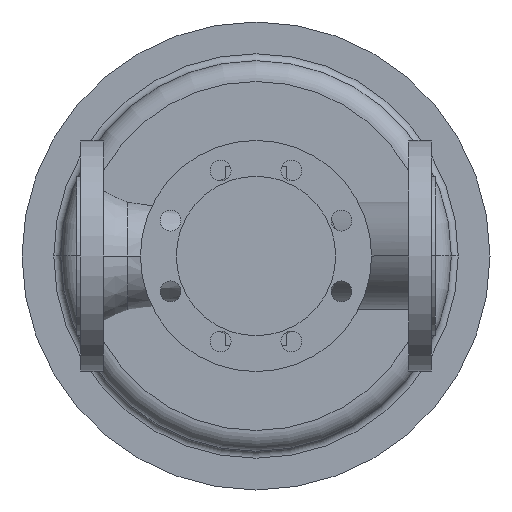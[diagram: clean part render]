
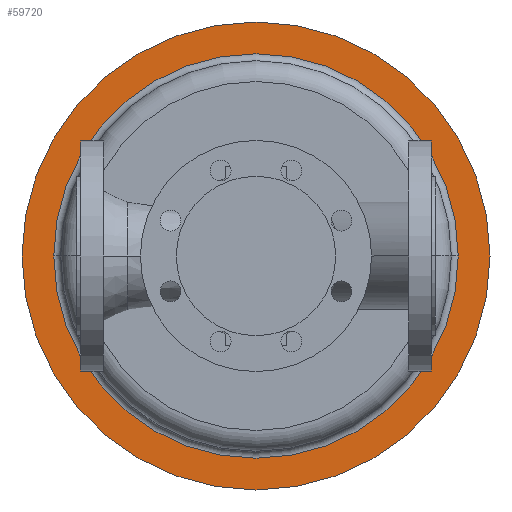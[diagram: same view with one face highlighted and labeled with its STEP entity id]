
A CAD part, front view. The second image highlights one B-rep face of the part: STEP entity #59720.
In plain terms, the highlighted planar face has unit normal (0, -1, 0).
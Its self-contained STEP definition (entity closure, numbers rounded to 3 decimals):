
#47560=CARTESIAN_POINT('',(-47.5,601.5,0.));
#47570=VERTEX_POINT('',#47560);
#47600=CARTESIAN_POINT('',(155.,601.5,0.));
#47610=DIRECTION('',(0.,1.,0.));
#47620=DIRECTION('',(1.,0.,0.));
#47630=AXIS2_PLACEMENT_3D('',#47600,#47610,#47620);
#47640=CIRCLE('',#47630,202.5);
#47650=CARTESIAN_POINT('',(357.5,601.5,0.));
#47660=VERTEX_POINT('',#47650);
#47670=EDGE_CURVE('',#47660,#47570,#47640,.T.);
#47990=CARTESIAN_POINT('',(330.,601.5,0.));
#48000=VERTEX_POINT('',#47990);
#48170=CARTESIAN_POINT('',(-20.,601.5,0.));
#48180=VERTEX_POINT('',#48170);
#48210=CARTESIAN_POINT('',(155.,601.5,0.));
#48220=DIRECTION('',(0.,1.,0.));
#48230=DIRECTION('',(1.,0.,0.));
#48240=AXIS2_PLACEMENT_3D('',#48210,#48220,#48230);
#48250=CIRCLE('',#48240,175.);
#48260=EDGE_CURVE('',#48180,#48000,#48250,.T.);
#59570=CARTESIAN_POINT('',(343.75,601.5,0.));
#59580=DIRECTION('',(0.,-1.,0.));
#59590=DIRECTION('',(-1.,0.,0.));
#59600=AXIS2_PLACEMENT_3D('',#59570,#59580,#59590);
#59610=PLANE('',#59600);
#59620=ORIENTED_EDGE('',*,*,#47670,.F.);
#59630=EDGE_CURVE('',#47570,#47660,#47640,.T.);
#59640=ORIENTED_EDGE('',*,*,#59630,.F.);
#59650=EDGE_LOOP('',(#59640,#59620));
#59660=FACE_OUTER_BOUND('',#59650,.T.);
#59670=EDGE_CURVE('',#48000,#48180,#48250,.T.);
#59680=ORIENTED_EDGE('',*,*,#59670,.T.);
#59690=ORIENTED_EDGE('',*,*,#48260,.T.);
#59700=EDGE_LOOP('',(#59690,#59680));
#59710=FACE_BOUND('',#59700,.T.);
#59720=ADVANCED_FACE('',(#59660,#59710),#59610,.T.);
